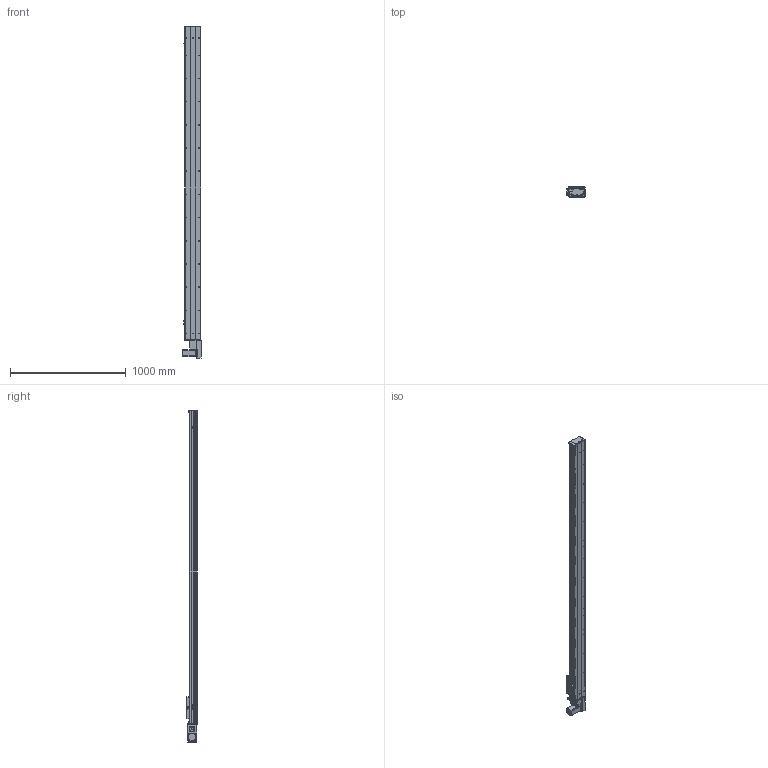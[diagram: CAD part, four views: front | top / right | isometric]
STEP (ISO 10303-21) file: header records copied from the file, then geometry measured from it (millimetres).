
FILE_DESCRIPTION (( 'STEP AP203' ), '1' );
FILE_NAME ('Y135CB-D90-S2400-BL-P400W.STEP', '2020-02-18T01:37:51', ( '微软用户' ), ( '微软中国' ), 'SwSTEP 2.0', 'SolidWorks 2017', '' );
FILE_SCHEMA (( 'CONFIG_CONTROL_DESIGN' ));
Length unit declared in the file: millimetre
Products named in the file (18): Y俋欶BR----; Y135C-陔俋离換覜結え-; 0B-埴倛裔啣; 5C--俋欶; 0B-源倛裔啣; C-雄赽釱--; 0B-萇儂楊擘啣; Y135CB-耜裔; Y135CB-D90-S2400-BL-P400W; san松下电机400不带刹车----; 135CB---遴掛极.-; 5CB --掛极耜裔啣-; 35CB---喘謫眊楊擘啣; C-詩湍揤踡え-陔; Y10B--々湍喘謫眊--666; 135CB--詩湍-CE; Y10B-耜蚾蟀諉啣----; Y100-135俋离換覜ん--
Assembly tree (21 placements, depth 2):
  Y135CB-D90-S2400-BL-P400W
    Y135CB-耜裔
    135CB---遴掛极.-
    35CB---喘謫眊楊擘啣
    Y10B--々湍喘謫眊--666
    Y10B-耜蚾蟀諉啣----
    Y俋欶BR----
    0B-埴倛裔啣
    0B-源倛裔啣
    0B-萇儂楊擘啣
    san松下电机400不带刹车----
    5CB --掛极耜裔啣-  x2
    C-詩湍揤踡え-陔  x2
    135CB--詩湍-CE
    Y100-135俋离換覜ん--  x3
    Y135C-陔俋离換覜結え-
    5C--俋欶
    C-雄赽釱--
Bounding box: 157.5 x 91 x 2864.5 mm (x, y, z)
Volume: 8022978.1 mm3; surface area: 3176856.6 mm2
Topology: 21 solids, 21 shells, 973 faces, 2653 edges, 1758 vertices
Faces by surface type: cylinder 499, plane 458, cone 16
Entity records: 30755 total; most frequent: CARTESIAN_POINT 5120, DIRECTION 5109, ORIENTED_EDGE 4782, EDGE_CURVE 2391, AXIS2_PLACEMENT_3D 1871, VERTEX_POINT 1586, VECTOR 1367, LINE 1367
